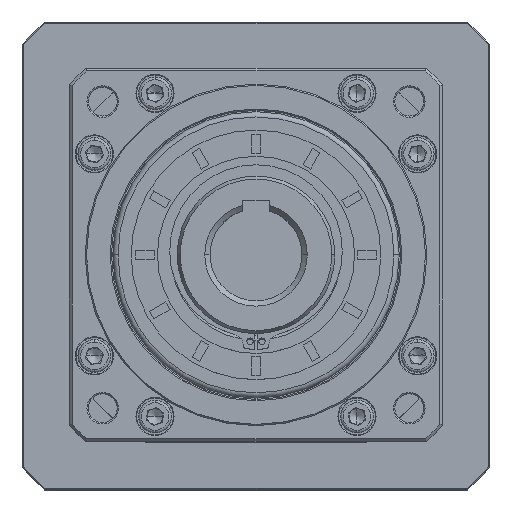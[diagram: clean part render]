
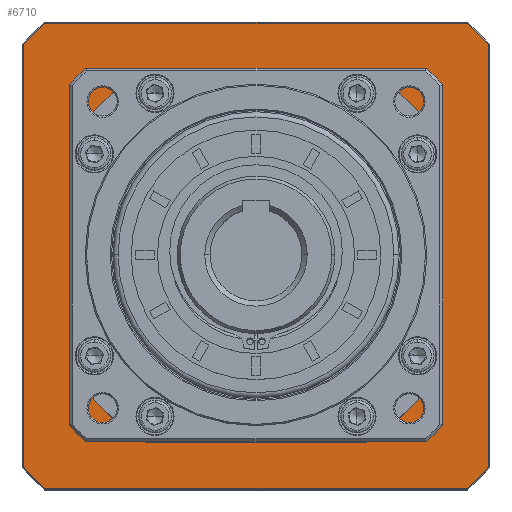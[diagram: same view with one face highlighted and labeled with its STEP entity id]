
A CAD part, top view. The second image highlights one B-rep face of the part: STEP entity #6710.
In plain terms, the highlighted planar face has unit normal (0, 0, 1).
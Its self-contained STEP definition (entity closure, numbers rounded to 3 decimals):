
#1609 = CARTESIAN_POINT ( 'NONE',  ( 65.395, 164.471, 29.727 ) ) ;
#2659 = CIRCLE ( 'NONE', #6920, 82. ) ;
#3166 = DIRECTION ( 'NONE',  ( -1., 0., 0. ) ) ;
#3248 = CARTESIAN_POINT ( 'NONE',  ( 206.395, 164.471, 29.727 ) ) ;
#4073 = CARTESIAN_POINT ( 'NONE',  ( 206.395, 51.594, 29.727 ) ) ;
#4648 = CARTESIAN_POINT ( 'NONE',  ( 224.395, 122.594, 29.727 ) ) ;
#6046 = EDGE_CURVE ( 'NONE', #19937, #6690, #80360, .T. ) ;
#6242 = DIRECTION ( 'NONE',  ( 0., 0., 1. ) ) ;
#6350 = EDGE_CURVE ( 'NONE', #6690, #51751, #22928, .T. ) ;
#6690 = VERTEX_POINT ( 'NONE', #63981 ) ;
#6710 = ADVANCED_FACE ( 'NONE', ( #84338, #71735 ), #55412, .F. ) ;
#6920 = AXIS2_PLACEMENT_3D ( 'NONE', #70379, #6242, #61427 ) ;
#6951 = AXIS2_PLACEMENT_3D ( 'NONE', #87656, #104930, #113919 ) ;
#9035 = LINE ( 'NONE', #107775, #27236 ) ;
#9207 = CIRCLE ( 'NONE', #59469, 119.5 ) ;
#9501 = CARTESIAN_POINT ( 'NONE',  ( 224.395, 202.893, 29.727 ) ) ;
#10142 = LINE ( 'NONE', #30129, #63369 ) ;
#11639 = AXIS2_PLACEMENT_3D ( 'NONE', #63026, #99029, #98657 ) ;
#13102 = CARTESIAN_POINT ( 'NONE',  ( 135.895, 122.594, 29.727 ) ) ;
#13119 = CARTESIAN_POINT ( 'NONE',  ( 216.194, 34.094, 29.727 ) ) ;
#13634 = ORIENTED_EDGE ( 'NONE', *, *, #6350, .F. ) ;
#14831 = ORIENTED_EDGE ( 'NONE', *, *, #59635, .F. ) ;
#15562 = DIRECTION ( 'NONE',  ( 1., 0., 0. ) ) ;
#16135 = CARTESIAN_POINT ( 'NONE',  ( 65.395, 80.716, 29.727 ) ) ;
#16852 = EDGE_CURVE ( 'NONE', #115643, #102995, #72359, .T. ) ;
#19559 = CIRCLE ( 'NONE', #70182, 82. ) ;
#19821 = VERTEX_POINT ( 'NONE', #13119 ) ;
#19937 = VERTEX_POINT ( 'NONE', #96042 ) ;
#20272 = DIRECTION ( 'NONE',  ( 0., -1., 0. ) ) ;
#20850 = LINE ( 'NONE', #4648, #62851 ) ;
#22928 = CIRCLE ( 'NONE', #36036, 82. ) ;
#23202 = EDGE_CURVE ( 'NONE', #115025, #79834, #2659, .T. ) ;
#24570 = EDGE_CURVE ( 'NONE', #109148, #103292, #19559, .T. ) ;
#26041 = ORIENTED_EDGE ( 'NONE', *, *, #24570, .F. ) ;
#27236 = VECTOR ( 'NONE', #84637, 1000. ) ;
#27805 = CARTESIAN_POINT ( 'NONE',  ( 135.895, 122.594, 29.727 ) ) ;
#28081 = CIRCLE ( 'NONE', #112124, 82. ) ;
#28864 = LINE ( 'NONE', #4073, #82073 ) ;
#28988 = EDGE_CURVE ( 'NONE', #110417, #19937, #28081, .T. ) ;
#29016 = CARTESIAN_POINT ( 'NONE',  ( 135.895, 122.594, 29.727 ) ) ;
#30129 = CARTESIAN_POINT ( 'NONE',  ( 135.895, 34.094, 29.727 ) ) ;
#34083 = LINE ( 'NONE', #82298, #71888 ) ;
#34292 = ORIENTED_EDGE ( 'NONE', *, *, #28988, .F. ) ;
#35348 = AXIS2_PLACEMENT_3D ( 'NONE', #13102, #110174, #92519 ) ;
#35517 = ORIENTED_EDGE ( 'NONE', *, *, #6046, .F. ) ;
#35740 = EDGE_CURVE ( 'NONE', #19821, #115643, #10142, .T. ) ;
#36036 = AXIS2_PLACEMENT_3D ( 'NONE', #87524, #50852, #15562 ) ;
#37583 = CARTESIAN_POINT ( 'NONE',  ( 135.895, 211.094, 29.727 ) ) ;
#38330 = VERTEX_POINT ( 'NONE', #93220 ) ;
#44933 = AXIS2_PLACEMENT_3D ( 'NONE', #27805, #63794, #54044 ) ;
#50438 = CARTESIAN_POINT ( 'NONE',  ( 224.395, 42.294, 29.727 ) ) ;
#50852 = DIRECTION ( 'NONE',  ( 0., 0., 1. ) ) ;
#51751 = VERTEX_POINT ( 'NONE', #1609 ) ;
#53682 = CARTESIAN_POINT ( 'NONE',  ( 177.773, 52.094, 29.727 ) ) ;
#53688 = CIRCLE ( 'NONE', #44933, 119.5 ) ;
#54010 = DIRECTION ( 'NONE',  ( 1., 0., 0. ) ) ;
#54044 = DIRECTION ( 'NONE',  ( -1., 0., 0. ) ) ;
#54325 = DIRECTION ( 'NONE',  ( 0., 0., 1. ) ) ;
#55215 = DIRECTION ( 'NONE',  ( 1., 0., 0. ) ) ;
#55311 = CARTESIAN_POINT ( 'NONE',  ( 206.395, 80.716, 29.727 ) ) ;
#55412 = PLANE ( 'NONE',  #35348 ) ;
#55551 = DIRECTION ( 'NONE',  ( -1., 0., 0. ) ) ;
#55872 = CARTESIAN_POINT ( 'NONE',  ( 135.895, 122.594, 29.727 ) ) ;
#57000 = ORIENTED_EDGE ( 'NONE', *, *, #80595, .F. ) ;
#58029 = ORIENTED_EDGE ( 'NONE', *, *, #88480, .F. ) ;
#58201 = VERTEX_POINT ( 'NONE', #67777 ) ;
#59469 = AXIS2_PLACEMENT_3D ( 'NONE', #29016, #101074, #91620 ) ;
#59635 = EDGE_CURVE ( 'NONE', #103292, #110417, #28864, .T. ) ;
#61427 = DIRECTION ( 'NONE',  ( 0., -1., 0. ) ) ;
#62727 = VERTEX_POINT ( 'NONE', #50438 ) ;
#62851 = VECTOR ( 'NONE', #111099, 1000. ) ;
#63026 = CARTESIAN_POINT ( 'NONE',  ( 135.895, 122.594, 29.727 ) ) ;
#63361 = CARTESIAN_POINT ( 'NONE',  ( 206.895, 193.094, 29.727 ) ) ;
#63369 = VECTOR ( 'NONE', #3166, 1000. ) ;
#63408 = ORIENTED_EDGE ( 'NONE', *, *, #23202, .F. ) ;
#63545 = DIRECTION ( 'NONE',  ( 0., -1., 0. ) ) ;
#63794 = DIRECTION ( 'NONE',  ( 0., 0., -1. ) ) ;
#63817 = DIRECTION ( 'NONE',  ( 1., 0., 0. ) ) ;
#63981 = CARTESIAN_POINT ( 'NONE',  ( 94.017, 193.094, 29.727 ) ) ;
#65000 = VECTOR ( 'NONE', #55551, 1000. ) ;
#65010 = ORIENTED_EDGE ( 'NONE', *, *, #16852, .F. ) ;
#66815 = ORIENTED_EDGE ( 'NONE', *, *, #108702, .F. ) ;
#67777 = CARTESIAN_POINT ( 'NONE',  ( 55.595, 211.094, 29.727 ) ) ;
#68385 = VECTOR ( 'NONE', #55215, 1000. ) ;
#68524 = CARTESIAN_POINT ( 'NONE',  ( 216.194, 211.094, 29.727 ) ) ;
#69004 = CARTESIAN_POINT ( 'NONE',  ( 47.395, 42.294, 29.727 ) ) ;
#70182 = AXIS2_PLACEMENT_3D ( 'NONE', #107692, #99464, #63817 ) ;
#70379 = CARTESIAN_POINT ( 'NONE',  ( 135.895, 122.594, 29.727 ) ) ;
#71334 = EDGE_CURVE ( 'NONE', #82349, #62727, #20850, .T. ) ;
#71735 = FACE_BOUND ( 'NONE', #111418, .T. ) ;
#71888 = VECTOR ( 'NONE', #63545, 1000. ) ;
#72359 = CIRCLE ( 'NONE', #6951, 119.5 ) ;
#75315 = LINE ( 'NONE', #37583, #68385 ) ;
#75575 = CIRCLE ( 'NONE', #11639, 119.5 ) ;
#75628 = DIRECTION ( 'NONE',  ( 0., 1., 0. ) ) ;
#79834 = VERTEX_POINT ( 'NONE', #93724 ) ;
#80285 = VERTEX_POINT ( 'NONE', #68524 ) ;
#80360 = LINE ( 'NONE', #63361, #65000 ) ;
#80595 = EDGE_CURVE ( 'NONE', #38330, #58201, #75575, .T. ) ;
#82073 = VECTOR ( 'NONE', #75628, 1000. ) ;
#82298 = CARTESIAN_POINT ( 'NONE',  ( 65.395, 51.594, 29.727 ) ) ;
#82349 = VERTEX_POINT ( 'NONE', #9501 ) ;
#83217 = ORIENTED_EDGE ( 'NONE', *, *, #90877, .F. ) ;
#83442 = ORIENTED_EDGE ( 'NONE', *, *, #93415, .F. ) ;
#84338 = FACE_OUTER_BOUND ( 'NONE', #106946, .T. ) ;
#84637 = DIRECTION ( 'NONE',  ( 0., 1., 0. ) ) ;
#86099 = ORIENTED_EDGE ( 'NONE', *, *, #71334, .F. ) ;
#87524 = CARTESIAN_POINT ( 'NONE',  ( 135.895, 122.594, 29.727 ) ) ;
#87656 = CARTESIAN_POINT ( 'NONE',  ( 135.895, 122.594, 29.727 ) ) ;
#88480 = EDGE_CURVE ( 'NONE', #79834, #109148, #97762, .T. ) ;
#90877 = EDGE_CURVE ( 'NONE', #80285, #82349, #9207, .T. ) ;
#91620 = DIRECTION ( 'NONE',  ( -1., 0., 0. ) ) ;
#92519 = DIRECTION ( 'NONE',  ( -1., 0., 0. ) ) ;
#93220 = CARTESIAN_POINT ( 'NONE',  ( 47.395, 202.893, 29.727 ) ) ;
#93415 = EDGE_CURVE ( 'NONE', #62727, #19821, #53688, .T. ) ;
#93724 = CARTESIAN_POINT ( 'NONE',  ( 94.017, 52.094, 29.727 ) ) ;
#96042 = CARTESIAN_POINT ( 'NONE',  ( 177.773, 193.094, 29.727 ) ) ;
#97400 = ORIENTED_EDGE ( 'NONE', *, *, #35740, .F. ) ;
#97762 = LINE ( 'NONE', #107248, #115920 ) ;
#98657 = DIRECTION ( 'NONE',  ( -1., 0., 0. ) ) ;
#98956 = ORIENTED_EDGE ( 'NONE', *, *, #104617, .F. ) ;
#99029 = DIRECTION ( 'NONE',  ( 0., 0., -1. ) ) ;
#99464 = DIRECTION ( 'NONE',  ( 0., 0., 1. ) ) ;
#101074 = DIRECTION ( 'NONE',  ( 0., 0., -1. ) ) ;
#102995 = VERTEX_POINT ( 'NONE', #69004 ) ;
#103292 = VERTEX_POINT ( 'NONE', #55311 ) ;
#104617 = EDGE_CURVE ( 'NONE', #58201, #80285, #75315, .T. ) ;
#104930 = DIRECTION ( 'NONE',  ( 0., 0., -1. ) ) ;
#106550 = EDGE_CURVE ( 'NONE', #51751, #115025, #34083, .T. ) ;
#106946 = EDGE_LOOP ( 'NONE', ( #97400, #83442, #86099, #83217, #98956, #57000, #66815, #65010 ) ) ;
#107248 = CARTESIAN_POINT ( 'NONE',  ( 206.895, 52.094, 29.727 ) ) ;
#107692 = CARTESIAN_POINT ( 'NONE',  ( 135.895, 122.594, 29.727 ) ) ;
#107775 = CARTESIAN_POINT ( 'NONE',  ( 47.395, 122.594, 29.727 ) ) ;
#108702 = EDGE_CURVE ( 'NONE', #102995, #38330, #9035, .T. ) ;
#109148 = VERTEX_POINT ( 'NONE', #53682 ) ;
#110174 = DIRECTION ( 'NONE',  ( 0., 0., -1. ) ) ;
#110417 = VERTEX_POINT ( 'NONE', #3248 ) ;
#111099 = DIRECTION ( 'NONE',  ( 0., -1., 0. ) ) ;
#111418 = EDGE_LOOP ( 'NONE', ( #34292, #14831, #26041, #58029, #63408, #114391, #13634, #35517 ) ) ;
#112124 = AXIS2_PLACEMENT_3D ( 'NONE', #55872, #54325, #20272 ) ;
#113919 = DIRECTION ( 'NONE',  ( -1., 0., 0. ) ) ;
#114391 = ORIENTED_EDGE ( 'NONE', *, *, #106550, .F. ) ;
#115025 = VERTEX_POINT ( 'NONE', #16135 ) ;
#115271 = CARTESIAN_POINT ( 'NONE',  ( 55.595, 34.094, 29.727 ) ) ;
#115643 = VERTEX_POINT ( 'NONE', #115271 ) ;
#115920 = VECTOR ( 'NONE', #54010, 1000. ) ;
